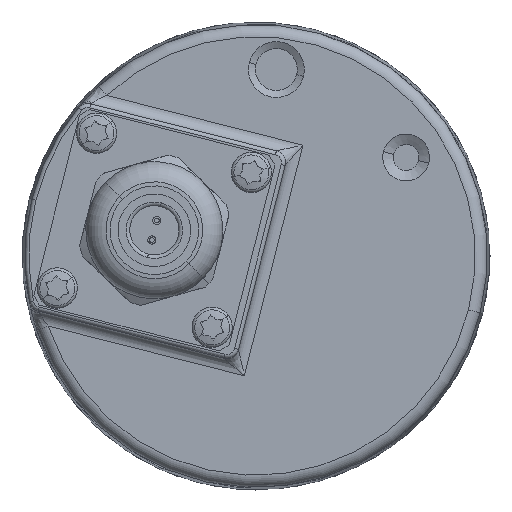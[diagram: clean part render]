
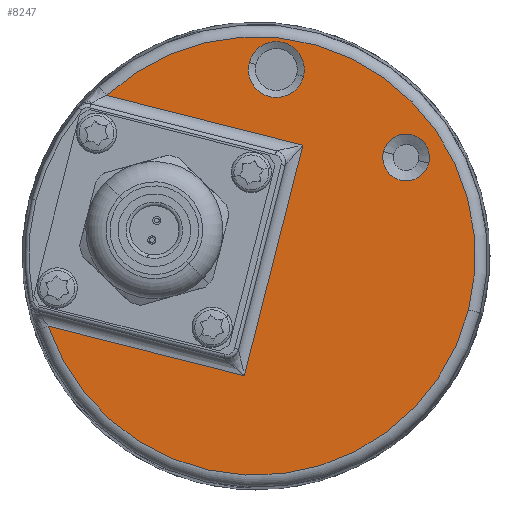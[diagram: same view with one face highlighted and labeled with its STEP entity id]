
A CAD part, left-side view. The second image highlights one B-rep face of the part: STEP entity #8247.
In plain terms, the highlighted planar face has unit normal (-1, 0, 0).
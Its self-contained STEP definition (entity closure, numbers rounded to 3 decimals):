
#5303 = DIRECTION ( 'NONE',  ( 0., 0.246, -0.969 ) ) ;
#5304 = VECTOR ( 'NONE', #5303, 1000. ) ;
#5305 = CARTESIAN_POINT ( 'NONE',  ( -19., 1.074, -13.397 ) ) ;
#5306 = LINE ( 'NONE', #5305, #5304 ) ;
#5528 = CARTESIAN_POINT ( 'NONE',  ( -19., -5.805, 13.745 ) ) ;
#5620 = DIRECTION ( 'NONE',  ( 0., -0.969, -0.246 ) ) ;
#5621 = DIRECTION ( 'NONE',  ( 1., 0., 0. ) ) ;
#5622 = CARTESIAN_POINT ( 'NONE',  ( -19., -18.601, 12.209 ) ) ;
#5623 = AXIS2_PLACEMENT_3D ( 'NONE', #5622, #5621, #5620 ) ;
#5630 = CIRCLE ( 'NONE', #5623, 2.899 ) ;
#5663 = CARTESIAN_POINT ( 'NONE',  ( -19., -21.412, 11.496 ) ) ;
#5751 = DIRECTION ( 'NONE',  ( 0., -0.969, -0.246 ) ) ;
#5752 = VECTOR ( 'NONE', #5751, 1000. ) ;
#5753 = CARTESIAN_POINT ( 'NONE',  ( -19., -4.351, 14.114 ) ) ;
#5754 = LINE ( 'NONE', #5753, #5752 ) ;
#5755 = DIRECTION ( 'NONE',  ( 0., -0.969, -0.246 ) ) ;
#5756 = DIRECTION ( 'NONE',  ( 1., 0., 0. ) ) ;
#5757 = CARTESIAN_POINT ( 'NONE',  ( -19., -2.52, 23.113 ) ) ;
#5758 = AXIS2_PLACEMENT_3D ( 'NONE', #5757, #5756, #5755 ) ;
#5759 = CIRCLE ( 'NONE', #5758, 3.466 ) ;
#6091 = CARTESIAN_POINT ( 'NONE',  ( -19., 25.745, -8.691 ) ) ;
#6097 = CARTESIAN_POINT ( 'NONE',  ( -19., 1.443, -14.851 ) ) ;
#6102 = CARTESIAN_POINT ( 'NONE',  ( -19., 0., 0. ) ) ;
#6103 = DIRECTION ( 'NONE',  ( 0., -0.969, -0.246 ) ) ;
#6104 = DIRECTION ( 'NONE',  ( 1., 0., 0. ) ) ;
#6105 = CARTESIAN_POINT ( 'NONE',  ( -19., 0., 0. ) ) ;
#6106 = AXIS2_PLACEMENT_3D ( 'NONE', #6105, #6104, #6103 ) ;
#6107 = CIRCLE ( 'NONE', #6156, 27.173 ) ;
#6108 = PLANE ( 'NONE',  #6106 ) ;
#6122 = FACE_OUTER_BOUND ( 'NONE', #8149, .T. ) ;
#6123 = FACE_BOUND ( 'NONE', #8094, .T. ) ;
#6124 = FACE_BOUND ( 'NONE', #8154, .T. ) ;
#6149 = DIRECTION ( 'NONE',  ( 0., 0.969, 0.246 ) ) ;
#6150 = VECTOR ( 'NONE', #6149, 1000. ) ;
#6151 = CARTESIAN_POINT ( 'NONE',  ( -19., 28.251, -8.056 ) ) ;
#6152 = LINE ( 'NONE', #6151, #6150 ) ;
#6154 = DIRECTION ( 'NONE',  ( 0., -0.969, -0.246 ) ) ;
#6155 = DIRECTION ( 'NONE',  ( -1., 0., 0. ) ) ;
#6156 = AXIS2_PLACEMENT_3D ( 'NONE', #6102, #6155, #6154 ) ;
#6772 = CARTESIAN_POINT ( 'NONE',  ( -19., -5.88, 22.262 ) ) ;
#6803 = DIRECTION ( 'NONE',  ( 0., -0.969, -0.246 ) ) ;
#6804 = DIRECTION ( 'NONE',  ( 1., 0., 0. ) ) ;
#6805 = CARTESIAN_POINT ( 'NONE',  ( -19., -2.52, 23.113 ) ) ;
#6806 = AXIS2_PLACEMENT_3D ( 'NONE', #6805, #6804, #6803 ) ;
#6807 = CIRCLE ( 'NONE', #6806, 3.466 ) ;
#7084 = CARTESIAN_POINT ( 'NONE',  ( -19., 18.498, 19.905 ) ) ;
#7085 = CARTESIAN_POINT ( 'NONE',  ( -19., -26.34, -6.676 ) ) ;
#7086 = DIRECTION ( 'NONE',  ( 0., -0.969, -0.246 ) ) ;
#7087 = DIRECTION ( 'NONE',  ( -1., 0., 0. ) ) ;
#7088 = CARTESIAN_POINT ( 'NONE',  ( -19., 0., 0. ) ) ;
#7089 = AXIS2_PLACEMENT_3D ( 'NONE', #7088, #7087, #7086 ) ;
#7090 = CIRCLE ( 'NONE', #7089, 27.173 ) ;
#7960 = VERTEX_POINT ( 'NONE', #12092 ) ;
#7964 = EDGE_CURVE ( 'NONE', #7965, #8119, #12090, .T. ) ;
#7965 = VERTEX_POINT ( 'NONE', #12085 ) ;
#8075 = EDGE_CURVE ( 'NONE', #8085, #8239, #5306, .T. ) ;
#8085 = VERTEX_POINT ( 'NONE', #5528 ) ;
#8094 = EDGE_LOOP ( 'NONE', ( #8153, #8151 ) ) ;
#8112 = EDGE_CURVE ( 'NONE', #8119, #7965, #5630, .T. ) ;
#8119 = VERTEX_POINT ( 'NONE', #5663 ) ;
#8145 = EDGE_CURVE ( 'NONE', #8425, #7960, #5759, .T. ) ;
#8146 = ORIENTED_EDGE ( 'NONE', *, *, #8507, .T. ) ;
#8147 = ORIENTED_EDGE ( 'NONE', *, *, #8148, .T. ) ;
#8148 = EDGE_CURVE ( 'NONE', #8509, #8085, #5754, .T. ) ;
#8149 = EDGE_LOOP ( 'NONE', ( #8250, #8245, #8146, #8147, #8155 ) ) ;
#8151 = ORIENTED_EDGE ( 'NONE', *, *, #8112, .T. ) ;
#8153 = ORIENTED_EDGE ( 'NONE', *, *, #7964, .T. ) ;
#8154 = EDGE_LOOP ( 'NONE', ( #8248, #8246 ) ) ;
#8155 = ORIENTED_EDGE ( 'NONE', *, *, #8075, .T. ) ;
#8239 = VERTEX_POINT ( 'NONE', #6097 ) ;
#8244 = VERTEX_POINT ( 'NONE', #6091 ) ;
#8245 = ORIENTED_EDGE ( 'NONE', *, *, #8249, .T. ) ;
#8246 = ORIENTED_EDGE ( 'NONE', *, *, #8145, .T. ) ;
#8247 = ADVANCED_FACE ( 'NONE', ( #6124, #6123, #6122 ), #6108, .F. ) ;
#8248 = ORIENTED_EDGE ( 'NONE', *, *, #8432, .T. ) ;
#8249 = EDGE_CURVE ( 'NONE', #8244, #8508, #6107, .T. ) ;
#8250 = ORIENTED_EDGE ( 'NONE', *, *, #8251, .T. ) ;
#8251 = EDGE_CURVE ( 'NONE', #8239, #8244, #6152, .T. ) ;
#8425 = VERTEX_POINT ( 'NONE', #6772 ) ;
#8432 = EDGE_CURVE ( 'NONE', #7960, #8425, #6807, .T. ) ;
#8507 = EDGE_CURVE ( 'NONE', #8508, #8509, #7090, .T. ) ;
#8508 = VERTEX_POINT ( 'NONE', #7085 ) ;
#8509 = VERTEX_POINT ( 'NONE', #7084 ) ;
#12085 = CARTESIAN_POINT ( 'NONE',  ( -19., -15.791, 12.921 ) ) ;
#12086 = DIRECTION ( 'NONE',  ( 0., -0.969, -0.246 ) ) ;
#12087 = DIRECTION ( 'NONE',  ( 1., 0., 0. ) ) ;
#12088 = CARTESIAN_POINT ( 'NONE',  ( -19., -18.601, 12.209 ) ) ;
#12089 = AXIS2_PLACEMENT_3D ( 'NONE', #12088, #12087, #12086 ) ;
#12090 = CIRCLE ( 'NONE', #12089, 2.899 ) ;
#12092 = CARTESIAN_POINT ( 'NONE',  ( -19., 0.84, 23.965 ) ) ;
